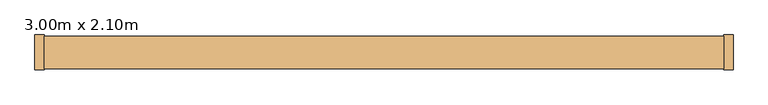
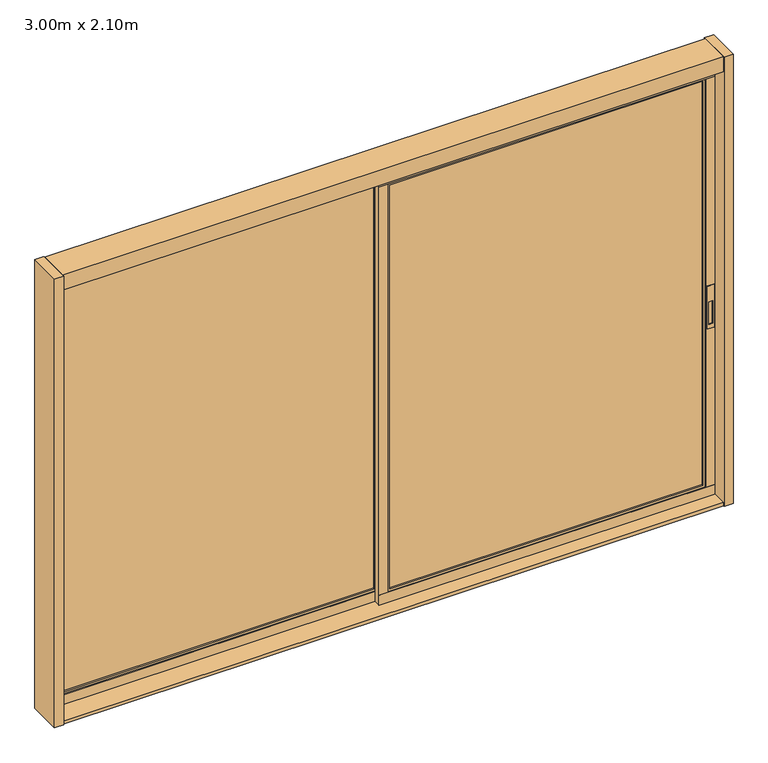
"""IFC4 building model written with IfcOpenShell, lengths in millimetres: door geometry, Porta de Correr - 2 Folhas - ComPainel 1 : 3.00m x 2.10m."""

from ifc_helpers import new_model, si_unit, frame, origin, origin_with_axes, place, context, project, spatial, polyline, outline, extrude, faceted_brep, source, transform, mapped, element, save


def door_3_00m_x_2_10m_bc451fc0(model_context):
    return source(origin(), model_context, "Body", "SolidModel", [
        extrude(outline(polyline([(1000.0, 1484.2060771), (1000.0, 1454.2060771), (800.0, 1454.2060771), (800.0, 1484.2060771), (1000.0, 1484.2060771)]), holes=[polyline([(924.4849874, 1461.0294364), (924.4849874, 1478.1448294), (820.0, 1478.1448294), (820.0, 1461.0294364), (924.4849874, 1461.0294364)])]), frame((0.0, -7.3991119, 0.0), z_axis=(0.0, 1.0, 0.0), x_axis=(0.0, 0.0, 1.0)), (0.0, 0.0, 1.0), 2.3991119),
        extrude(outline(polyline([(1439.2060771, 7.672758), (54.2060771, 7.672758), (54.2060771, 12.9358747), (1439.2060771, 12.9358747), (1439.2060771, 7.672758)])), frame((0.0, 0.0, 70.0), z_axis=(0.0, 0.0, 1.0), x_axis=(1.0, 0.0, 0.0)), (0.0, 0.0, 1.0), 1890.0),
        faceted_brep([(4.2060771, -5.0, 2030.0), (4.2060771, 25.0, 2030.0), (4.2060771, 25.0, 1970.0), (4.2060771, 24.375, 1970.0), (4.2060771, 24.375, 60.0), (4.2060771, 25.0, 60.0), (4.2060771, 25.0, 0.0), (4.2060771, -5.0, 0.0), (4.2060771, -5.0, 60.0), (4.2060771, -4.375, 60.0), (4.2060771, -4.375, 1970.0), (4.2060771, -5.0, 1970.0), (1489.2060771, -5.0, 2030.0), (1489.2060771, -5.0, 1970.0), (1489.2060771, -3.75, 1970.0), (1489.2060771, -3.75, 60.0), (1489.2060771, -5.0, 60.0), (1489.2060771, -5.0, 0.0), (1489.2060771, 25.0, 0.0), (1489.2060771, 25.0, 60.0), (1489.2060771, 23.75, 60.0), (1489.2060771, 23.75, 1970.0), (1489.2060771, 25.0, 1970.0), (1489.2060771, 25.0, 2030.0), (1449.2060771, 23.75, 1970.0), (1449.2060771, 20.0, 1970.0), (44.2060771, 20.0, 1970.0), (44.2060771, 24.375, 1970.0), (1449.2060771, 20.0, 60.0), (44.2060771, 20.0, 60.0), (1439.2060771, 20.0, 1960.0), (54.2060771, 20.0, 1960.0), (54.2060771, 20.0, 70.0), (1439.2060771, 20.0, 70.0), (54.2060771, 0.0, 1960.0), (1439.2060771, 0.0, 1960.0), (1449.2060771, 0.0, 1970.0), (44.2060771, 0.0, 1970.0), (44.2060771, 0.0, 60.0), (1449.2060771, 0.0, 60.0), (1439.2060771, 0.0, 70.0), (54.2060771, 0.0, 70.0), (44.2060771, -4.375, 1970.0), (1449.2060771, -3.75, 1970.0), (44.2060771, 24.375, 60.0), (44.2060771, -4.375, 60.0), (1449.2060771, 23.75, 60.0), (1449.2060771, -3.75, 60.0)], [[[0, 1, 2, 3, 4, 5, 6, 7, 8, 9, 10, 11]], [[12, 13, 14, 15, 16, 17, 18, 19, 20, 21, 22, 23]], [[1, 0, 12, 23]], [[2, 1, 23, 22]], [[2, 22, 21, 24, 25, 26, 27, 3]], [[26, 25, 28, 29], [30, 31, 32, 33]], [[34, 31, 30, 35]], [[36, 37, 38, 39], [34, 35, 40, 41]], [[13, 11, 10, 42, 37, 36, 43, 14]], [[0, 11, 13, 12]], [[4, 3, 27, 44]], [[44, 27, 26, 29]], [[31, 34, 41, 32]], [[42, 45, 38, 37]], [[10, 9, 45, 42]], [[21, 20, 46, 24]], [[24, 46, 28, 25]], [[35, 30, 33, 40]], [[47, 43, 36, 39]], [[15, 14, 43, 47]], [[18, 17, 7, 6]], [[19, 18, 6, 5]], [[19, 5, 4, 44, 29, 28, 46, 20]], [[41, 40, 33, 32]], [[8, 16, 15, 47, 39, 38, 45, 9]], [[17, 16, 8, 7]]]),
        extrude(outline(polyline([(4.2060771, 37.672758), (-1380.7939229, 37.672758), (-1380.7939229, 42.9358747), (4.2060771, 42.9358747), (4.2060771, 37.672758)])), frame((0.0, 0.0, 70.0), z_axis=(0.0, 0.0, 1.0), x_axis=(1.0, 0.0, 0.0)), (0.0, 0.0, 1.0), 1890.0),
        faceted_brep([(-1430.7939229, 25.0, 2030.0), (-1430.7939229, 55.0, 2030.0), (-1430.7939229, 55.0, 1970.0), (-1430.7939229, 54.375, 1970.0), (-1430.7939229, 54.375, 60.0), (-1430.7939229, 55.0, 60.0), (-1430.7939229, 55.0, 0.0), (-1430.7939229, 25.0, 0.0), (-1430.7939229, 25.0, 60.0), (-1430.7939229, 25.625, 60.0), (-1430.7939229, 25.625, 1970.0), (-1430.7939229, 25.0, 1970.0), (54.2060771, 25.0, 2030.0), (54.2060771, 25.0, 1970.0), (54.2060771, 26.25, 1970.0), (54.2060771, 26.25, 60.0), (54.2060771, 25.0, 60.0), (54.2060771, 25.0, 0.0), (54.2060771, 55.0, 0.0), (54.2060771, 55.0, 60.0), (54.2060771, 53.75, 60.0), (54.2060771, 53.75, 1970.0), (54.2060771, 55.0, 1970.0), (54.2060771, 55.0, 2030.0), (14.2060771, 53.75, 1970.0), (14.2060771, 50.0, 1970.0), (-1390.7939229, 50.0, 1970.0), (-1390.7939229, 54.375, 1970.0), (14.2060771, 50.0, 60.0), (-1390.7939229, 50.0, 60.0), (4.2060771, 50.0, 1960.0), (-1380.7939229, 50.0, 1960.0), (-1380.7939229, 50.0, 70.0), (4.2060771, 50.0, 70.0), (-1380.7939229, 30.0, 1960.0), (4.2060771, 30.0, 1960.0), (14.2060771, 30.0, 1970.0), (-1390.7939229, 30.0, 1970.0), (-1390.7939229, 30.0, 60.0), (14.2060771, 30.0, 60.0), (4.2060771, 30.0, 70.0), (-1380.7939229, 30.0, 70.0), (-1390.7939229, 25.625, 1970.0), (14.2060771, 26.25, 1970.0), (-1390.7939229, 54.375, 60.0), (-1390.7939229, 25.625, 60.0), (14.2060771, 53.75, 60.0), (14.2060771, 26.25, 60.0)], [[[0, 1, 2, 3, 4, 5, 6, 7, 8, 9, 10, 11]], [[12, 13, 14, 15, 16, 17, 18, 19, 20, 21, 22, 23]], [[1, 0, 12, 23]], [[2, 1, 23, 22]], [[2, 22, 21, 24, 25, 26, 27, 3]], [[26, 25, 28, 29], [30, 31, 32, 33]], [[34, 31, 30, 35]], [[36, 37, 38, 39], [34, 35, 40, 41]], [[13, 11, 10, 42, 37, 36, 43, 14]], [[0, 11, 13, 12]], [[4, 3, 27, 44]], [[44, 27, 26, 29]], [[31, 34, 41, 32]], [[42, 45, 38, 37]], [[10, 9, 45, 42]], [[21, 20, 46, 24]], [[24, 46, 28, 25]], [[35, 30, 33, 40]], [[47, 43, 36, 39]], [[15, 14, 43, 47]], [[18, 17, 7, 6]], [[19, 18, 6, 5]], [[19, 5, 4, 44, 29, 28, 46, 20]], [[41, 40, 33, 32]], [[8, 16, 15, 47, 39, 38, 45, 9]], [[17, 16, 8, 7]]]),
        extrude(outline(polyline([(1489.2060771, -70.0), (-1430.7939229, -70.0), (-1430.7939229, 70.0), (1489.2060771, 70.0), (1489.2060771, -70.0)])), frame((0.0, 0.0, 2030.0), z_axis=(0.0, 0.0, 1.0), x_axis=(1.0, 0.0, 0.0)), (0.0, 0.0, 1.0), 70.0),
        extrude(outline(polyline([(1489.2060771, -70.0), (-1430.7939229, -70.0), (-1430.7939229, 70.0), (1489.2060771, 70.0), (1489.2060771, -70.0)])), origin_with_axes(), (0.0, 0.0, 1.0), 15.0),
        extrude(outline(polyline([(-1430.7939229, -75.0), (-1470.7939229, -75.0), (-1470.7939229, 75.0), (-1430.7939229, 75.0), (-1430.7939229, -75.0)])), origin_with_axes(), (0.0, 0.0, 1.0), 2100.0),
        extrude(outline(polyline([(1529.2060771, -75.0), (1489.2060771, -75.0), (1489.2060771, 75.0), (1529.2060771, 75.0), (1529.2060771, -75.0)])), origin_with_axes(), (0.0, 0.0, 1.0), 2100.0),
    ])


if __name__ == "__main__":
    model = new_model("IFC4")
    model_context = context("Model", 3, world=origin())
    ifc_project = project(units=[si_unit("LENGTHUNIT", "METRE", prefix="MILLI")], contexts=[model_context])
    site = spatial("IfcSite", under=ifc_project)
    building = spatial("IfcBuilding", under=site)
    placement = place(None, origin())
    door_3_00m_x_2_10m_shape = door_3_00m_x_2_10m_bc451fc0(model_context)
    element("IfcDoor", 1, ObjectType="Porta de Correr - 2 Folhas - ComPainel 1 : 3.00m x 2.10m", at=placement, inside=building, context=model_context, shape_type="MappedRepresentation", body=[
        mapped(door_3_00m_x_2_10m_shape, transform((0.0, 0.0, 0.0), x_axis=(1.0, 0.0, 0.0), y_axis=(0.0, 1.0, 0.0), z_axis=(0.0, 0.0, 1.0))),
    ])
    save(model, "model.ifc")
